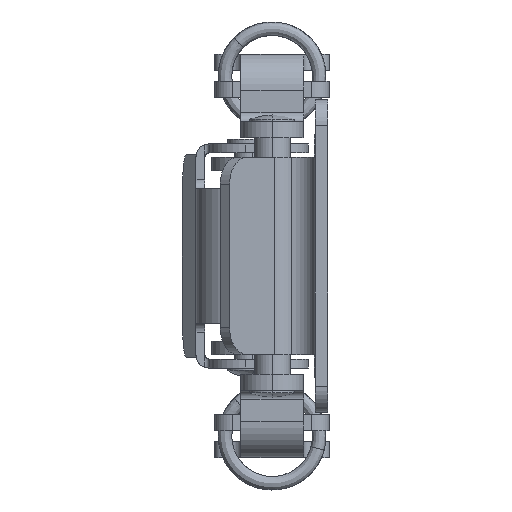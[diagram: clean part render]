
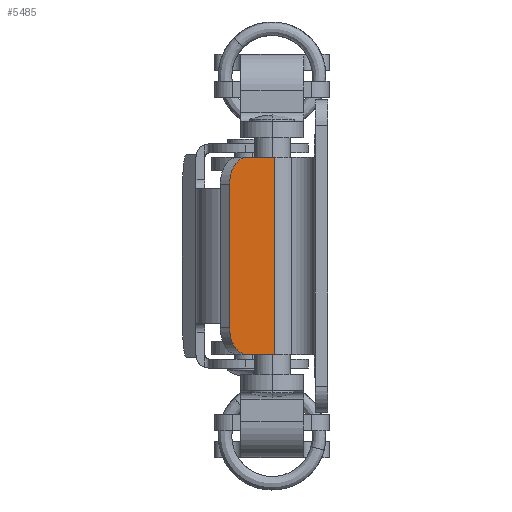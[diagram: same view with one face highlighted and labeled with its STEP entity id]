
A CAD part, left-side view. The second image highlights one B-rep face of the part: STEP entity #5485.
In plain terms, the highlighted planar face has unit normal (-0.658, -0.753, 0) as drawn and (0.658, -0.753, 0) by its records, which use the part's own axes.
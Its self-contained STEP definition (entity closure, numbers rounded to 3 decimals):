
#476 = DIRECTION ( 'NONE',  ( 0., 0., -1. ) ) ;
#2031 = VECTOR ( 'NONE', #4088, 1000. ) ;
#2904 = LINE ( 'NONE', #13911, #2031 ) ;
#3118 = VECTOR ( 'NONE', #4528, 1000. ) ;
#3136 = AXIS2_PLACEMENT_3D ( 'NONE', #7163, #16746, #8581 ) ;
#3148 = LINE ( 'NONE', #6103, #17339 ) ;
#3637 = CARTESIAN_POINT ( 'NONE',  ( -17., 10.946, 25.5 ) ) ;
#4088 = DIRECTION ( 'NONE',  ( 0.753, 0.658, 0. ) ) ;
#4528 = DIRECTION ( 'NONE',  ( 0.753, 0.658, 0. ) ) ;
#4799 = VERTEX_POINT ( 'NONE', #11457 ) ;
#4947 = EDGE_CURVE ( 'NONE', #8794, #16094, #3148, .T. ) ;
#5224 = ORIENTED_EDGE ( 'NONE', *, *, #7703, .F. ) ;
#5485 = ADVANCED_FACE ( 'NONE', ( #15497 ), #14014, .F. ) ;
#5643 = CARTESIAN_POINT ( 'NONE',  ( -17., 10.946, 35. ) ) ;
#6103 = CARTESIAN_POINT ( 'NONE',  ( -22.71, 5.958, 35. ) ) ;
#6978 = CARTESIAN_POINT ( 'NONE',  ( -19.26, 8.972, 9.5 ) ) ;
#7046 = CARTESIAN_POINT ( 'NONE',  ( -22.71, 5.958, 35. ) ) ;
#7163 = CARTESIAN_POINT ( 'NONE',  ( -19.26, 8.972, 25.5 ) ) ;
#7235 = AXIS2_PLACEMENT_3D ( 'NONE', #6978, #16567, #8396 ) ;
#7275 = LINE ( 'NONE', #12971, #3118 ) ;
#7357 = EDGE_LOOP ( 'NONE', ( #11682, #14315, #5224, #9477, #11108, #11176 ) ) ;
#7541 = EDGE_CURVE ( 'NONE', #16094, #9214, #2904, .T. ) ;
#7623 = EDGE_CURVE ( 'NONE', #9214, #4799, #12791, .T. ) ;
#7703 = EDGE_CURVE ( 'NONE', #16550, #4799, #12334, .T. ) ;
#7761 = EDGE_CURVE ( 'NONE', #16550, #10229, #11477, .T. ) ;
#7863 = EDGE_CURVE ( 'NONE', #8794, #10229, #7275, .T. ) ;
#8396 = DIRECTION ( 'NONE',  ( -0.753, -0.658, 0. ) ) ;
#8462 = DIRECTION ( 'NONE',  ( -0.753, -0.658, 0. ) ) ;
#8581 = DIRECTION ( 'NONE',  ( -0.753, -0.658, 0. ) ) ;
#8794 = VERTEX_POINT ( 'NONE', #14197 ) ;
#9111 = AXIS2_PLACEMENT_3D ( 'NONE', #7046, #16632, #8462 ) ;
#9214 = VERTEX_POINT ( 'NONE', #14577 ) ;
#9477 = ORIENTED_EDGE ( 'NONE', *, *, #7761, .T. ) ;
#10229 = VERTEX_POINT ( 'NONE', #14448 ) ;
#11108 = ORIENTED_EDGE ( 'NONE', *, *, #7863, .F. ) ;
#11176 = ORIENTED_EDGE ( 'NONE', *, *, #4947, .T. ) ;
#11320 = DIRECTION ( 'NONE',  ( 0., 0., -1. ) ) ;
#11457 = CARTESIAN_POINT ( 'NONE',  ( -17., 10.946, 9.5 ) ) ;
#11477 = CIRCLE ( 'NONE', #3136, 3. ) ;
#11682 = ORIENTED_EDGE ( 'NONE', *, *, #7541, .T. ) ;
#12334 = LINE ( 'NONE', #5643, #15074 ) ;
#12791 = CIRCLE ( 'NONE', #7235, 3. ) ;
#12971 = CARTESIAN_POINT ( 'NONE',  ( -22.71, 5.958, 28.5 ) ) ;
#12999 = CARTESIAN_POINT ( 'NONE',  ( -22.71, 5.958, 6.5 ) ) ;
#13911 = CARTESIAN_POINT ( 'NONE',  ( -22.71, 5.958, 6.5 ) ) ;
#14014 = PLANE ( 'NONE',  #9111 ) ;
#14197 = CARTESIAN_POINT ( 'NONE',  ( -22.71, 5.958, 28.5 ) ) ;
#14315 = ORIENTED_EDGE ( 'NONE', *, *, #7623, .T. ) ;
#14448 = CARTESIAN_POINT ( 'NONE',  ( -19.26, 8.972, 28.5 ) ) ;
#14577 = CARTESIAN_POINT ( 'NONE',  ( -19.26, 8.972, 6.5 ) ) ;
#15074 = VECTOR ( 'NONE', #11320, 1000. ) ;
#15497 = FACE_OUTER_BOUND ( 'NONE', #7357, .T. ) ;
#16094 = VERTEX_POINT ( 'NONE', #12999 ) ;
#16550 = VERTEX_POINT ( 'NONE', #3637 ) ;
#16567 = DIRECTION ( 'NONE',  ( 0.658, -0.753, 0. ) ) ;
#16632 = DIRECTION ( 'NONE',  ( -0.658, 0.753, 0. ) ) ;
#16746 = DIRECTION ( 'NONE',  ( 0.658, -0.753, 0. ) ) ;
#17339 = VECTOR ( 'NONE', #476, 1000. ) ;
